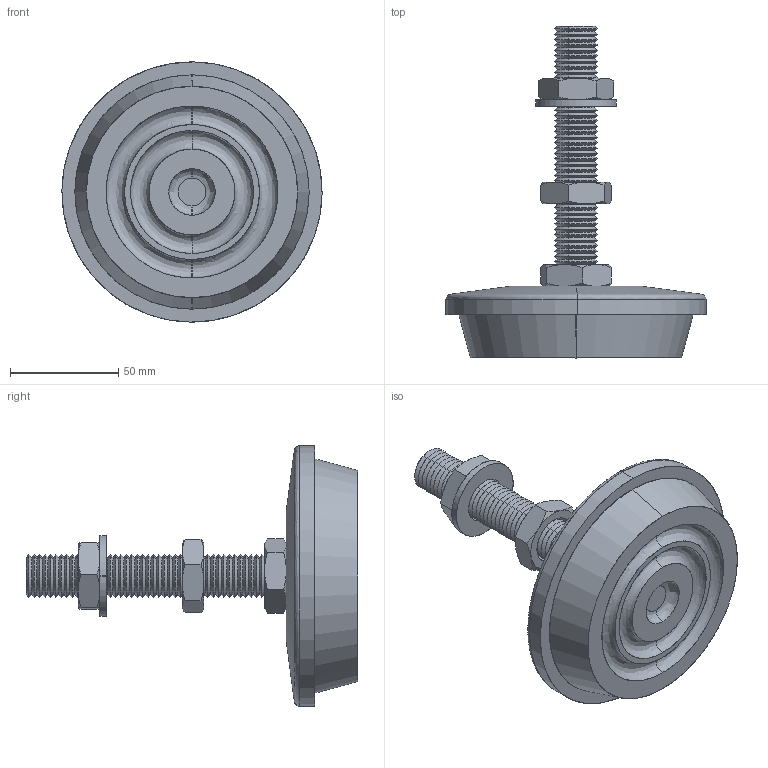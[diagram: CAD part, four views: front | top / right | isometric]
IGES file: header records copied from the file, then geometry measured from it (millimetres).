
Start section: SolidWorks IGES file using analytic representation for surfaces
Global section: file name: C:\Documents and Settings\IANO\Desktop\Temp File\Process pending\EXISTING\34930_v2\34930_v2_20170626_IGES\34930.W0120.igs; native system: SolidWorks 2009; preprocessor: SolidWorks 2009; author: IANO; date: 170626.131451; units: millimetre
Bounding box: 120 x 153 x 120 mm (x, y, z)
Surface area: 74257.6 mm2 (no closed solid volume)
Topology: 0 solids, 0 shells, 324 faces, 3160 edges, 3160 vertices
Faces by surface type: revolution 280, bspline 44
